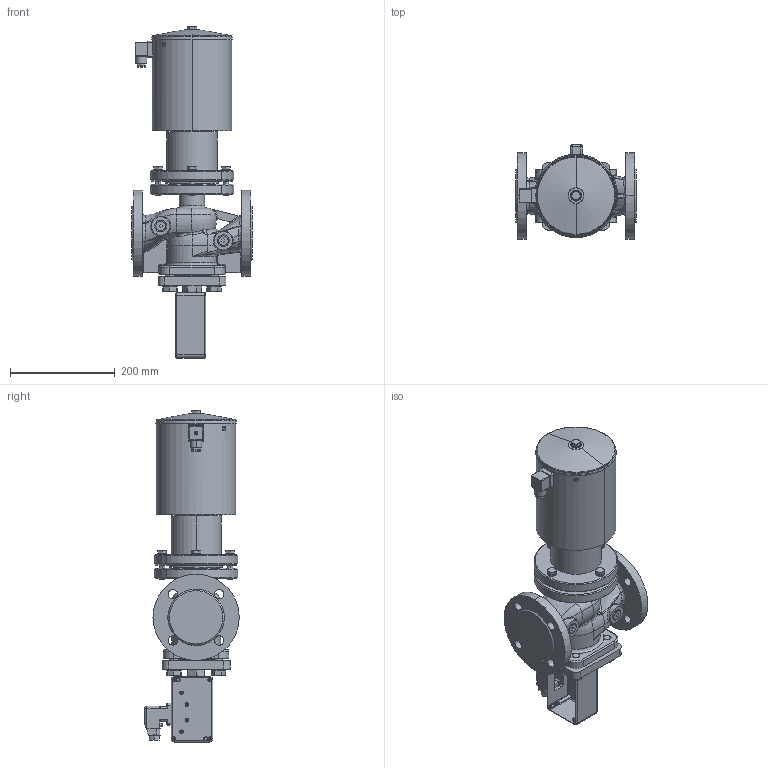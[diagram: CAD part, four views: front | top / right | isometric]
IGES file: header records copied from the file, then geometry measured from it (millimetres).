
Global section: file name: No Iges File Name specified; native system: AutoDesk Inventor R12.0; preprocessor: AutoDesk Inventor Iges Exporter R12.0; date: 20100517.073019; units: millimetre
Bounding box: 230 x 180.7 x 634.8 mm (x, y, z)
Volume: 8052539 mm3; surface area: 541766 mm2
Topology: 1 solids, 1 shells, 1281 faces, 3294 edges, 2057 vertices
Faces by surface type: plane 463, bspline 289, cylinder 223, cone 157, revolution 67, torus 61, sphere 21
